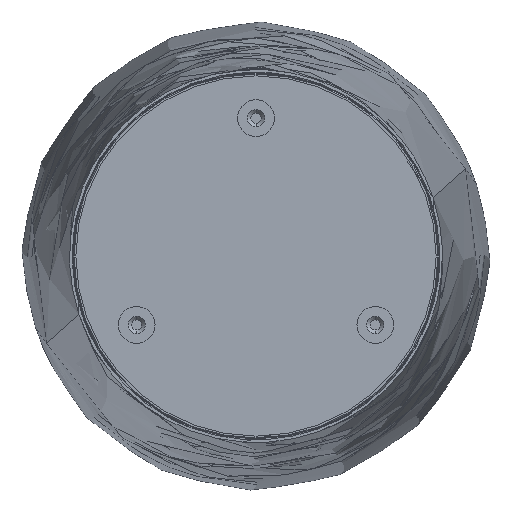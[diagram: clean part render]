
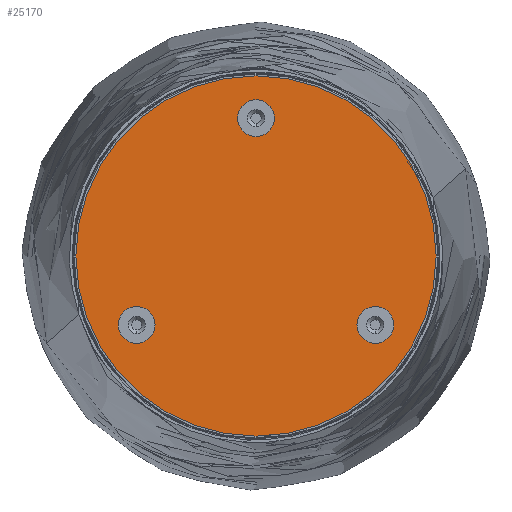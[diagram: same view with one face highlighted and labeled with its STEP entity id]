
A CAD part, front view. The second image highlights one B-rep face of the part: STEP entity #25170.
In plain terms, the highlighted planar face has unit normal (0, -1, 0).
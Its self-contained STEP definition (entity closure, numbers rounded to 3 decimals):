
#460 = EDGE_LOOP ( 'NONE', ( #19564, #17188 ) ) ;
#540 = CARTESIAN_POINT ( 'NONE',  ( 0., -1., 0. ) ) ;
#1281 = EDGE_CURVE ( 'NONE', #18882, #12802, #22407, .T. ) ;
#2028 = CARTESIAN_POINT ( 'NONE',  ( 0., -1., 75. ) ) ;
#2180 = AXIS2_PLACEMENT_3D ( 'NONE', #18767, #2893, #20310 ) ;
#2893 = DIRECTION ( 'NONE',  ( 0., 1., 0. ) ) ;
#3104 = CARTESIAN_POINT ( 'NONE',  ( 0., -1., 75. ) ) ;
#3545 = FACE_BOUND ( 'NONE', #17493, .T. ) ;
#3797 = FACE_BOUND ( 'NONE', #16697, .T. ) ;
#3869 = CARTESIAN_POINT ( 'NONE',  ( 0., -1., 0. ) ) ;
#4529 = CARTESIAN_POINT ( 'NONE',  ( 84.87, -1., 49. ) ) ;
#4883 = EDGE_CURVE ( 'NONE', #12802, #18882, #17625, .T. ) ;
#5962 = CIRCLE ( 'NONE', #13394, 10. ) ;
#6130 = CIRCLE ( 'NONE', #20974, 98. ) ;
#7107 = CARTESIAN_POINT ( 'NONE',  ( 64.952, -1., -37.5 ) ) ;
#7214 = AXIS2_PLACEMENT_3D ( 'NONE', #14329, #22205, #18455 ) ;
#7394 = EDGE_CURVE ( 'NONE', #14012, #17698, #13369, .T. ) ;
#7450 = VERTEX_POINT ( 'NONE', #11185 ) ;
#7612 = DIRECTION ( 'NONE',  ( 0.866, 0., 0.5 ) ) ;
#9024 = ORIENTED_EDGE ( 'NONE', *, *, #15392, .T. ) ;
#9704 = AXIS2_PLACEMENT_3D ( 'NONE', #22609, #10863, #22859 ) ;
#9826 = CIRCLE ( 'NONE', #15619, 98. ) ;
#10065 = EDGE_CURVE ( 'NONE', #17698, #14012, #15069, .T. ) ;
#10859 = DIRECTION ( 'NONE',  ( 0.866, 0., 0.5 ) ) ;
#10863 = DIRECTION ( 'NONE',  ( 0., 1., 0. ) ) ;
#11047 = CARTESIAN_POINT ( 'NONE',  ( 56.292, -1., -42.5 ) ) ;
#11127 = CARTESIAN_POINT ( 'NONE',  ( 8.66, -1., 80. ) ) ;
#11185 = CARTESIAN_POINT ( 'NONE',  ( 73.612, -1., -32.5 ) ) ;
#11338 = ORIENTED_EDGE ( 'NONE', *, *, #10065, .T. ) ;
#11667 = FACE_OUTER_BOUND ( 'NONE', #460, .T. ) ;
#11937 = VERTEX_POINT ( 'NONE', #11047 ) ;
#12516 = DIRECTION ( 'NONE',  ( 0., 1., 0. ) ) ;
#12802 = VERTEX_POINT ( 'NONE', #13933 ) ;
#13086 = DIRECTION ( 'NONE',  ( 0.866, 0., 0.5 ) ) ;
#13369 = CIRCLE ( 'NONE', #2180, 10. ) ;
#13394 = AXIS2_PLACEMENT_3D ( 'NONE', #7107, #22869, #13086 ) ;
#13732 = PLANE ( 'NONE',  #15995 ) ;
#13933 = CARTESIAN_POINT ( 'NONE',  ( -8.66, -1., 70. ) ) ;
#13951 = VERTEX_POINT ( 'NONE', #20611 ) ;
#14012 = VERTEX_POINT ( 'NONE', #21110 ) ;
#14170 = DIRECTION ( 'NONE',  ( 0., 1., 0. ) ) ;
#14329 = CARTESIAN_POINT ( 'NONE',  ( -64.952, -1., -37.5 ) ) ;
#14874 = DIRECTION ( 'NONE',  ( 0.866, 0., 0.5 ) ) ;
#15069 = CIRCLE ( 'NONE', #7214, 10. ) ;
#15344 = ORIENTED_EDGE ( 'NONE', *, *, #4883, .T. ) ;
#15392 = EDGE_CURVE ( 'NONE', #11937, #7450, #5962, .T. ) ;
#15619 = AXIS2_PLACEMENT_3D ( 'NONE', #20388, #12516, #14874 ) ;
#15848 = ORIENTED_EDGE ( 'NONE', *, *, #25557, .T. ) ;
#15917 = CIRCLE ( 'NONE', #9704, 10. ) ;
#15995 = AXIS2_PLACEMENT_3D ( 'NONE', #540, #16192, #20296 ) ;
#16192 = DIRECTION ( 'NONE',  ( 0., 1., 0. ) ) ;
#16303 = ORIENTED_EDGE ( 'NONE', *, *, #1281, .T. ) ;
#16697 = EDGE_LOOP ( 'NONE', ( #15848, #9024 ) ) ;
#16826 = DIRECTION ( 'NONE',  ( 0., 1., 0. ) ) ;
#17071 = DIRECTION ( 'NONE',  ( 0., 1., 0. ) ) ;
#17188 = ORIENTED_EDGE ( 'NONE', *, *, #17383, .F. ) ;
#17383 = EDGE_CURVE ( 'NONE', #25433, #13951, #6130, .T. ) ;
#17493 = EDGE_LOOP ( 'NONE', ( #18055, #11338 ) ) ;
#17510 = EDGE_CURVE ( 'NONE', #13951, #25433, #9826, .T. ) ;
#17625 = CIRCLE ( 'NONE', #18392, 10. ) ;
#17698 = VERTEX_POINT ( 'NONE', #17777 ) ;
#17777 = CARTESIAN_POINT ( 'NONE',  ( -73.612, -1., -42.5 ) ) ;
#18055 = ORIENTED_EDGE ( 'NONE', *, *, #7394, .T. ) ;
#18392 = AXIS2_PLACEMENT_3D ( 'NONE', #2028, #14170, #19599 ) ;
#18455 = DIRECTION ( 'NONE',  ( 0.866, 0., 0.5 ) ) ;
#18767 = CARTESIAN_POINT ( 'NONE',  ( -64.952, -1., -37.5 ) ) ;
#18882 = VERTEX_POINT ( 'NONE', #11127 ) ;
#18989 = EDGE_LOOP ( 'NONE', ( #16303, #15344 ) ) ;
#19564 = ORIENTED_EDGE ( 'NONE', *, *, #17510, .F. ) ;
#19599 = DIRECTION ( 'NONE',  ( 0.866, 0., 0.5 ) ) ;
#19795 = FACE_BOUND ( 'NONE', #18989, .T. ) ;
#20296 = DIRECTION ( 'NONE',  ( 0.866, 0., 0.5 ) ) ;
#20310 = DIRECTION ( 'NONE',  ( 0.866, 0., 0.5 ) ) ;
#20388 = CARTESIAN_POINT ( 'NONE',  ( 0., -1., 0. ) ) ;
#20611 = CARTESIAN_POINT ( 'NONE',  ( -84.87, -1., -49. ) ) ;
#20974 = AXIS2_PLACEMENT_3D ( 'NONE', #3869, #17071, #7612 ) ;
#21110 = CARTESIAN_POINT ( 'NONE',  ( -56.292, -1., -32.5 ) ) ;
#22205 = DIRECTION ( 'NONE',  ( 0., 1., 0. ) ) ;
#22407 = CIRCLE ( 'NONE', #23249, 10. ) ;
#22609 = CARTESIAN_POINT ( 'NONE',  ( 64.952, -1., -37.5 ) ) ;
#22859 = DIRECTION ( 'NONE',  ( 0.866, 0., 0.5 ) ) ;
#22869 = DIRECTION ( 'NONE',  ( 0., 1., 0. ) ) ;
#23249 = AXIS2_PLACEMENT_3D ( 'NONE', #3104, #16826, #10859 ) ;
#25170 = ADVANCED_FACE ( 'NONE', ( #19795, #3797, #3545, #11667 ), #13732, .F. ) ;
#25433 = VERTEX_POINT ( 'NONE', #4529 ) ;
#25557 = EDGE_CURVE ( 'NONE', #7450, #11937, #15917, .T. ) ;
